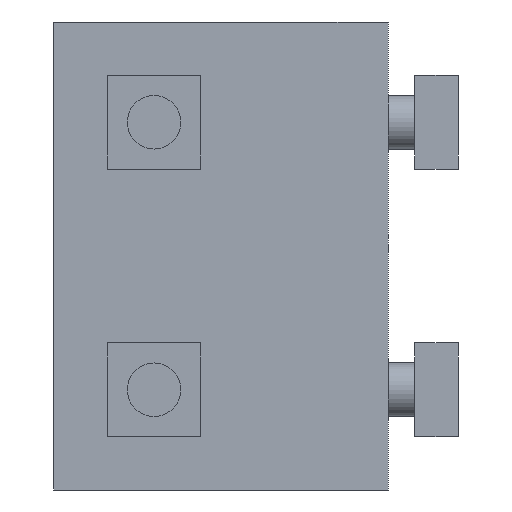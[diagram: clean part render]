
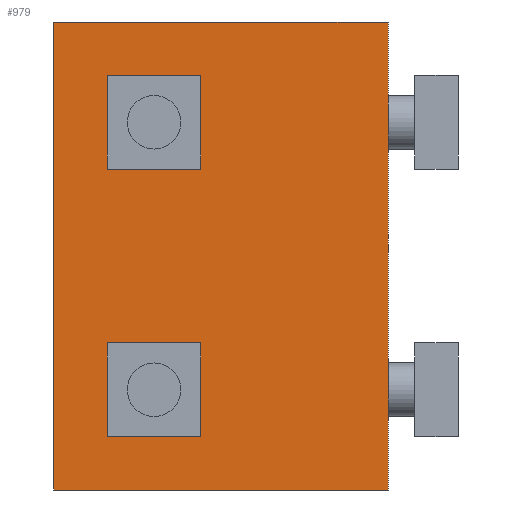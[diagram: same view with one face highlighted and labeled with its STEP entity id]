
A CAD part, left-side view. The second image highlights one B-rep face of the part: STEP entity #979.
In plain terms, the highlighted planar face has unit normal (-1, 0, 0).
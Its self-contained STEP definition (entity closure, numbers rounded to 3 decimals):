
#140=CARTESIAN_POINT('',(0.,30.5,20.0));
#141=VERTEX_POINT('',#140);
#142=CARTESIAN_POINT('',(0.0,35.0,20.0));
#143=DIRECTION('',(1.0,0.0,0.0));
#144=DIRECTION('',(0.0,-1.0,0.0));
#145=AXIS2_PLACEMENT_3D('',#142,#143,#144);
#146=CIRCLE('',#145,4.5);
#147=EDGE_CURVE('',#141,#141,#146,.T.);
#196=CARTESIAN_POINT('',(0.,30.5,-20.0));
#197=VERTEX_POINT('',#196);
#198=CARTESIAN_POINT('',(0.0,35.0,-20.0));
#199=DIRECTION('',(1.0,0.0,0.0));
#200=DIRECTION('',(0.0,-1.0,0.0));
#201=AXIS2_PLACEMENT_3D('',#198,#199,#200);
#202=CIRCLE('',#201,4.5);
#203=EDGE_CURVE('',#197,#197,#202,.T.);
#708=CARTESIAN_POINT('',(0.,50.0,-35.0));
#709=VERTEX_POINT('',#708);
#716=CARTESIAN_POINT('',(0.,50.0,35.0));
#717=VERTEX_POINT('',#716);
#718=CARTESIAN_POINT('',(0.,50.0,-35.0));
#719=DIRECTION('',(0.0,0.0,1.0));
#720=VECTOR('',#719,70.0);
#721=LINE('',#718,#720);
#722=EDGE_CURVE('',#709,#717,#721,.T.);
#927=CARTESIAN_POINT('',(0.0,0.0,-35.0));
#928=VERTEX_POINT('',#927);
#935=CARTESIAN_POINT('',(0.,50.0,-35.0));
#936=DIRECTION('',(0.0,-1.0,0.0));
#937=VECTOR('',#936,50.0);
#938=LINE('',#935,#937);
#939=EDGE_CURVE('',#709,#928,#938,.T.);
#950=CARTESIAN_POINT('',(0.0,0.0,0.0));
#951=DIRECTION('',(-1.0,0.0,0.0));
#952=DIRECTION('',(0.0,0.0,1.0));
#953=AXIS2_PLACEMENT_3D('',#950,#951,#952);
#954=PLANE('',#953);
#955=CARTESIAN_POINT('',(0.0,0.0,35.0));
#956=VERTEX_POINT('',#955);
#957=CARTESIAN_POINT('',(0.0,0.0,35.0));
#958=DIRECTION('',(0.0,1.0,0.0));
#959=VECTOR('',#958,50.0);
#960=LINE('',#957,#959);
#961=EDGE_CURVE('',#956,#717,#960,.T.);
#962=ORIENTED_EDGE('',*,*,#961,.T.);
#963=ORIENTED_EDGE('',*,*,#722,.F.);
#964=ORIENTED_EDGE('',*,*,#939,.T.);
#965=CARTESIAN_POINT('',(0.0,0.0,35.0));
#966=DIRECTION('',(0.0,0.0,-1.0));
#967=VECTOR('',#966,70.0);
#968=LINE('',#965,#967);
#969=EDGE_CURVE('',#956,#928,#968,.T.);
#970=ORIENTED_EDGE('',*,*,#969,.F.);
#971=EDGE_LOOP('',(#962,#963,#964,#970));
#972=FACE_OUTER_BOUND('',#971,.T.);
#973=ORIENTED_EDGE('',*,*,#203,.T.);
#974=EDGE_LOOP('',(#973));
#975=FACE_BOUND('',#974,.T.);
#976=ORIENTED_EDGE('',*,*,#147,.T.);
#977=EDGE_LOOP('',(#976));
#978=FACE_BOUND('',#977,.T.);
#979=ADVANCED_FACE('',(#972,#975,#978),#954,.T.);
